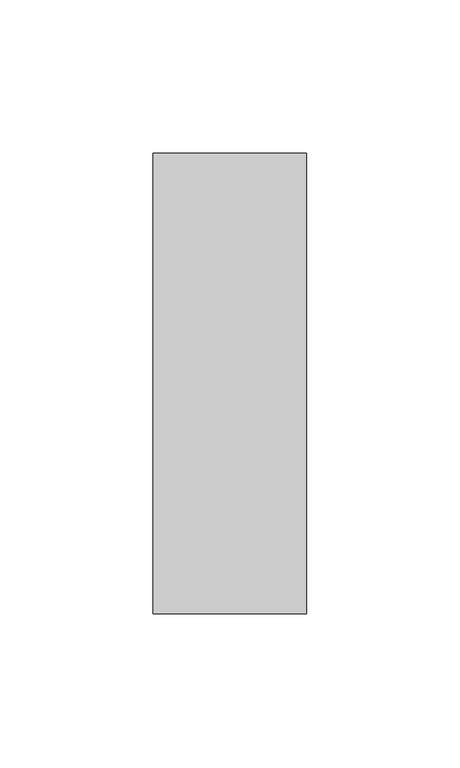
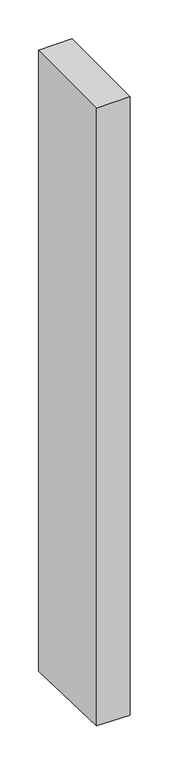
"""IFC4 building model written with IfcOpenShell, lengths in millimetres: member geometry, Прямоугольный импост : 50 x 150 мм."""

import ifcopenshell
import ifcopenshell.guid

model = None  # the IFC model being written
_history = None  # IfcOwnerHistory: only IFC2X3 demands one
_inside = {}  # id of a spatial element -> (the spatial element, [elements in it])
_under = {}  # id of a project, library or spatial element -> (it, [spatial elements below it])
_declared = {}  # id of a project -> (the project, [libraries it declares])
_typed = {}  # id of a type object -> (the type object, [elements of that type])
_made_of = {}  # id of a material, layer set ... -> (it, [elements and type objects made of it])


def new_model(schema):
    """Start an empty IFC model of exactly this schema.

    Asked for "IFC4X3", IfcOpenShell would pick the latest addendum, in which some entities
    have other attributes; the version numbers below select the first issue.
    IFC2X3 requires an IfcOwnerHistory on every rooted entity: one is made here for all.
    """
    global model, _history
    if schema == "IFC4X3":
        model = ifcopenshell.file(schema_version=(4, 3, 0, 0))
    else:
        model = ifcopenshell.file(schema=schema)
    _inside.clear()
    _under.clear()
    _declared.clear()
    _typed.clear()
    _made_of.clear()
    _history = None
    if model.schema == "IFC2X3":
        org = make("IfcOrganization", Name="unknown")
        user = make(
            "IfcPersonAndOrganization",
            ThePerson=make("IfcPerson", FamilyName="unknown"),
            TheOrganization=org,
        )
        app = make(
            "IfcApplication",
            ApplicationDeveloper=org,
            Version="unknown",
            ApplicationFullName="unknown",
            ApplicationIdentifier="unknown",
        )
        _history = make(
            "IfcOwnerHistory",
            OwningUser=user,
            OwningApplication=app,
            ChangeAction="ADDED",
            CreationDate=0,
        )
    return model


def make(cls, **values):
    """One entity of the class cls with the attributes given. An attribute that is None is left unset."""
    return model.create_entity(
        cls, **{name: value for name, value in values.items() if value is not None}
    )


def rooted(cls, **values):
    """An entity with a GlobalId (a new one), such as an element, a storey or a relation."""
    return make(cls, GlobalId=ifcopenshell.guid.new(), OwnerHistory=_history, **values)


def si_unit(unit_type, name, prefix=None):
    """IfcSIUnit, for example si_unit("LENGTHUNIT", "METRE", prefix="MILLI")."""
    return make("IfcSIUnit", UnitType=unit_type, Prefix=prefix, Name=name)


def assignment(units):
    """IfcUnitAssignment: the units of a project."""
    return None if units is None else make("IfcUnitAssignment", Units=units)


def point(xyz):
    """IfcCartesianPoint."""
    return None if xyz is None else make("IfcCartesianPoint", Coordinates=xyz)


def direction(xyz):
    """IfcDirection."""
    return None if xyz is None else make("IfcDirection", DirectionRatios=xyz)


def frame(location, z_axis=None, x_axis=None):
    """IfcAxis2Placement3D, a coordinate frame: its origin and axes. An axis left out is left unset."""
    return make(
        "IfcAxis2Placement3D",
        Location=point(location),
        Axis=direction(z_axis),
        RefDirection=direction(x_axis),
    )


def origin():
    """The frame at (0, 0, 0) with its axes left unset."""
    return frame((0.0, 0.0, 0.0))


def place(relative_to, where):
    """IfcLocalPlacement: puts the frame where relative to a parent placement (None: the world)."""
    return make(
        "IfcLocalPlacement", PlacementRelTo=relative_to, RelativePlacement=where
    )


def context(
    kind, dimensions, precision=None, world=None, true_north=None, identifier=None
):
    """IfcGeometricRepresentationContext, for example the 3D "Model" context."""
    return make(
        "IfcGeometricRepresentationContext",
        ContextIdentifier=identifier,
        ContextType=kind,
        CoordinateSpaceDimension=dimensions,
        Precision=precision,
        WorldCoordinateSystem=world,
        TrueNorth=true_north,
    )


def project(units=None, contexts=None):
    """IfcProject with its units and contexts."""
    return rooted(
        "IfcProject",
        Name="project",
        RepresentationContexts=contexts,
        UnitsInContext=assignment(units),
    )


def spatial(cls, under=None, at=None, **own):
    """A site, building, storey or space (cls), placed at a placement, below another one or the project."""
    s = rooted(cls, ObjectPlacement=at, **own)
    if under is not None:
        _under.setdefault(under.id(), (under, []))[1].append(s)
    return s


def faces_of(points, faces, orient=None, outer=None):
    """IfcFace entities. A face is a list of loops; a loop is a list of indices into points, from 0.

    orient and outer hold one flag for each loop. By default every Orientation is true, the
    first loop of a face is its IfcFaceOuterBound and the others are IfcFaceBound.
    """
    made = []
    for i, loops in enumerate(faces):
        bounds = []
        for j, loop in enumerate(loops):
            is_outer = j == 0 if outer is None else outer[i][j]
            bounds.append(
                make(
                    "IfcFaceOuterBound" if is_outer else "IfcFaceBound",
                    Bound=make("IfcPolyLoop", Polygon=[points[k] for k in loop]),
                    Orientation=True if orient is None else orient[i][j],
                )
            )
        made.append(make("IfcFace", Bounds=bounds))
    return made


def faceted_brep(points, faces, orient=None, outer=None, voids=None):
    """IfcFacetedBrep: a solid bounded by flat faces; with voids (closed shells), ...WithVoids."""
    shared = [point(p) for p in points]
    hull = make("IfcClosedShell", CfsFaces=faces_of(shared, faces, orient, outer))
    if voids is None:
        return make("IfcFacetedBrep", Outer=hull)
    return make(
        "IfcFacetedBrepWithVoids",
        Outer=hull,
        Voids=[
            make(cls, CfsFaces=faces_of(shared, fs, o, b)) for cls, fs, o, b in voids
        ],
    )


def shape(context_of_items, identifier, shape_type, items):
    """IfcShapeRepresentation: the items that make up one representation, for example the "Body"."""
    return make(
        "IfcShapeRepresentation",
        ContextOfItems=context_of_items,
        RepresentationIdentifier=identifier,
        RepresentationType=shape_type,
        Items=items,
    )


def source(mapping_origin, context_of_items, identifier, shape_type, items):
    """IfcRepresentationMap: a shape defined once, which mapped items show again and again."""
    return make(
        "IfcRepresentationMap",
        MappingOrigin=mapping_origin,
        MappedRepresentation=shape(context_of_items, identifier, shape_type, items),
    )


def transform(
    local_origin,
    x_axis=None,
    y_axis=None,
    z_axis=None,
    scale=None,
    scale2=None,
    scale3=None,
    uniform=True,
):
    """IfcCartesianTransformationOperator3D, or its non-uniform kind. x_axis, y_axis, z_axis: its Axis1, 2, 3."""
    if uniform:
        return make(
            "IfcCartesianTransformationOperator3D",
            Axis1=direction(x_axis),
            Axis2=direction(y_axis),
            LocalOrigin=point(local_origin),
            Scale=scale,
            Axis3=direction(z_axis),
        )
    return make(
        "IfcCartesianTransformationOperator3DnonUniform",
        Axis1=direction(x_axis),
        Axis2=direction(y_axis),
        LocalOrigin=point(local_origin),
        Scale=scale,
        Axis3=direction(z_axis),
        Scale2=scale2,
        Scale3=scale3,
    )


def mapped(mapping_source, mapping_target):
    """IfcMappedItem: shows the shape of a source again, moved by a transform."""
    return make(
        "IfcMappedItem", MappingSource=mapping_source, MappingTarget=mapping_target
    )


def made_of(thing, what):
    """Note that an element or type object is made of a material, layer set ...; save() writes the relation."""
    if what is not None:
        _made_of.setdefault(what.id(), (what, []))[1].append(thing)
    return thing


def element(
    cls,
    number,
    at=None,
    inside=None,
    cuts=None,
    type_object=None,
    material=None,
    context=None,
    identifier="Body",
    shape_type=None,
    held_by="IfcProductDefinitionShape",
    body=None,
    shapes=None,
    **own,
):
    """One element of the class cls, such as IfcWall. Its Tag is "e" and its number.

    at: its placement. inside: the storey or other place that contains it. cuts: it is an
    opening in that element (IfcRelVoidsElement). A single representation is given by context,
    identifier, shape_type and body (its items); several are given by shapes. held_by: the class
    of the entity that holds the representations. save() writes the other relations.
    """
    e = rooted(cls, Tag="e%d" % number, ObjectPlacement=at, **own)
    if body is not None:
        shapes = [shape(context, identifier, shape_type, body)]
    if shapes is not None:
        e.Representation = make(held_by, Representations=shapes)
    if inside is not None:
        _inside.setdefault(inside.id(), (inside, []))[1].append(e)
    if cuts is not None:
        rooted(
            "IfcRelVoidsElement", RelatingBuildingElement=cuts, RelatedOpeningElement=e
        )
    if type_object is not None:
        _typed.setdefault(type_object.id(), (type_object, []))[1].append(e)
    return made_of(e, material)


def aggregate(whole, parts):
    """IfcRelAggregates: a whole, such as a stair, and the parts it consists of."""
    return rooted("IfcRelAggregates", RelatingObject=whole, RelatedObjects=parts)


def save(model, path):
    """Write the relations noted so far, then the file.

    IfcRelAggregates (storeys below a building ...), IfcRelContainedInSpatialStructure (elements
    in a storey), IfcRelDefinesByType, IfcRelAssociatesMaterial and IfcRelDeclares: one each for
    every whole, place, type object, material and project.
    """
    for whole, parts in _under.values():
        aggregate(whole, parts)
    for where, things in _inside.values():
        rooted(
            "IfcRelContainedInSpatialStructure",
            RelatedElements=things,
            RelatingStructure=where,
        )
    for kind, things in _typed.values():
        rooted("IfcRelDefinesByType", RelatedObjects=things, RelatingType=kind)
    for what, things in _made_of.values():
        rooted("IfcRelAssociatesMaterial", RelatedObjects=things, RelatingMaterial=what)
    for by, libraries in _declared.values():
        rooted("IfcRelDeclares", RelatingContext=by, RelatedDefinitions=libraries)
    model.write(path)


def member_127c98e4(model_context):
    return source(origin(), model_context, "Body", "Brep", [
        faceted_brep([(-25.0, 75.0, -0.0585742), (25.0, 75.0, 0.5249215), (25.0, 75.0, -978.0733984), (-25.0, 75.0, -977.4535013), (-25.0, -75.0, -0.5249215), (-25.0, -75.0, -972.8115411), (25.0, -75.0, 0.0585742), (25.0, -75.0, -973.4314382)], [[[0, 1, 2, 3]], [[4, 0, 3, 5]], [[6, 4, 5, 7]], [[1, 6, 7, 2]], [[1, 0, 4, 6]], [[2, 7, 5, 3]]]),
    ])


if __name__ == "__main__":
    model = new_model("IFC4")
    model_context = context("Model", 3, world=origin())
    ifc_project = project(units=[si_unit("LENGTHUNIT", "METRE", prefix="MILLI")], contexts=[model_context])
    site = spatial("IfcSite", under=ifc_project)
    building = spatial("IfcBuilding", under=site)
    placement = place(None, origin())
    member_shape = member_127c98e4(model_context)
    element("IfcMember", 1, ObjectType="Прямоугольный импост : 50 x 150 мм", at=placement, inside=building, context=model_context, shape_type="MappedRepresentation", body=[
        mapped(member_shape, transform((0.0, 0.0, 0.0), x_axis=(1.0, 0.0, 0.0), y_axis=(0.0, 1.0, 0.0), z_axis=(0.0, 0.0, 1.0))),
    ])
    save(model, "model.ifc")
